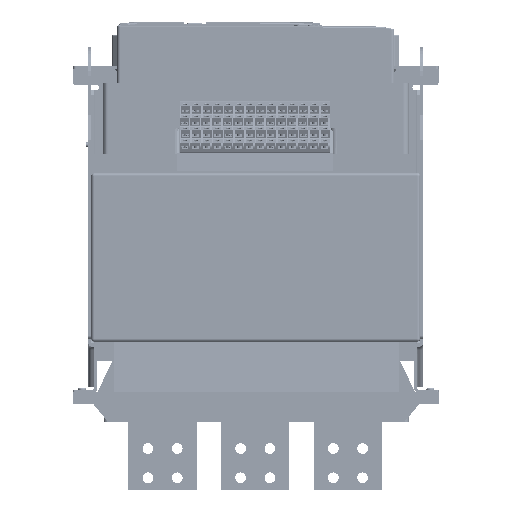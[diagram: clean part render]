
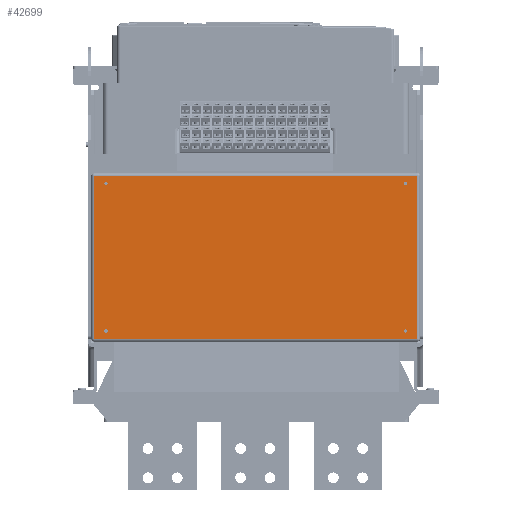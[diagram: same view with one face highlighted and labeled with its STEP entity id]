
A CAD part, front view. The second image highlights one B-rep face of the part: STEP entity #42699.
In plain terms, the highlighted planar face has unit normal (0, -1, 0).
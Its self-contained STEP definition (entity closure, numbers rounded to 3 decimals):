
#40400=CARTESIAN_POINT('',(-153.5,0.,75.5));
#40401=DIRECTION('',(0.,-1.,0.));
#40402=DIRECTION('',(1.,0.,0.));
#40403=AXIS2_PLACEMENT_3D('',#40400,#40401,#40402);
#40408=CARTESIAN_POINT('',(-153.5,0.,75.5));
#40409=DIRECTION('',(0.,-1.,0.));
#40410=DIRECTION('',(-1.,0.,0.));
#40411=AXIS2_PLACEMENT_3D('',#40408,#40409,#40410);
#40416=CARTESIAN_POINT('',(153.5,0.,75.5));
#40417=DIRECTION('',(0.,-1.,0.));
#40418=DIRECTION('',(1.,0.,0.));
#40419=AXIS2_PLACEMENT_3D('',#40416,#40417,#40418);
#40424=CARTESIAN_POINT('',(153.5,0.,75.5));
#40425=DIRECTION('',(0.,-1.,0.));
#40426=DIRECTION('',(-1.,0.,0.));
#40427=AXIS2_PLACEMENT_3D('',#40424,#40425,#40426);
#40432=CARTESIAN_POINT('',(153.5,0.,-75.5));
#40433=DIRECTION('',(0.,-1.,0.));
#40434=DIRECTION('',(1.,0.,0.));
#40435=AXIS2_PLACEMENT_3D('',#40432,#40433,#40434);
#40440=CARTESIAN_POINT('',(153.5,0.,-75.5));
#40441=DIRECTION('',(0.,-1.,0.));
#40442=DIRECTION('',(-1.,0.,0.));
#40443=AXIS2_PLACEMENT_3D('',#40440,#40441,#40442);
#40448=CARTESIAN_POINT('',(-153.5,0.,-75.5));
#40449=DIRECTION('',(0.,-1.,0.));
#40450=DIRECTION('',(1.,0.,0.));
#40451=AXIS2_PLACEMENT_3D('',#40448,#40449,#40450);
#40456=CARTESIAN_POINT('',(-153.5,0.,-75.5));
#40457=DIRECTION('',(0.,-1.,0.));
#40458=DIRECTION('',(-1.,0.,0.));
#40459=AXIS2_PLACEMENT_3D('',#40456,#40457,#40458);
#40464=DIRECTION('',(0.,0.,1.));
#40465=VECTOR('',#40464,167.);
#40466=CARTESIAN_POINT('',(165.5,0.,-83.5));
#40467=LINE('',#40466,#40465);
#40471=DIRECTION('',(1.,0.,0.));
#40472=VECTOR('',#40471,331.);
#40473=CARTESIAN_POINT('',(-165.5,0.,-83.5));
#40474=LINE('',#40473,#40472);
#40478=DIRECTION('',(0.,0.,-1.));
#40479=VECTOR('',#40478,167.);
#40480=CARTESIAN_POINT('',(-165.5,0.,83.5));
#40481=LINE('',#40480,#40479);
#40485=DIRECTION('',(-1.,0.,0.));
#40486=VECTOR('',#40485,331.);
#40487=CARTESIAN_POINT('',(165.5,0.,83.5));
#40488=LINE('',#40487,#40486);
#42484=CARTESIAN_POINT('',(-151.75,0.,75.5));
#42485=CARTESIAN_POINT('',(-155.25,0.,75.5));
#42486=VERTEX_POINT('',#42484);
#42487=VERTEX_POINT('',#42485);
#42488=CARTESIAN_POINT('',(155.25,0.,75.5));
#42489=CARTESIAN_POINT('',(151.75,0.,75.5));
#42490=VERTEX_POINT('',#42488);
#42491=VERTEX_POINT('',#42489);
#42492=CARTESIAN_POINT('',(155.25,0.,-75.5));
#42493=CARTESIAN_POINT('',(151.75,0.,-75.5));
#42494=VERTEX_POINT('',#42492);
#42495=VERTEX_POINT('',#42493);
#42496=CARTESIAN_POINT('',(-151.75,0.,-75.5));
#42497=CARTESIAN_POINT('',(-155.25,0.,-75.5));
#42498=VERTEX_POINT('',#42496);
#42499=VERTEX_POINT('',#42497);
#42616=CARTESIAN_POINT('',(165.5,0.,-83.5));
#42617=CARTESIAN_POINT('',(165.5,0.,83.5));
#42618=VERTEX_POINT('',#42616);
#42619=VERTEX_POINT('',#42617);
#42634=CARTESIAN_POINT('',(-165.5,0.,-83.5));
#42635=VERTEX_POINT('',#42634);
#42648=CARTESIAN_POINT('',(-165.5,0.,83.5));
#42649=VERTEX_POINT('',#42648);
#42660=CARTESIAN_POINT('',(0.,0.,0.));
#42661=DIRECTION('',(0.,1.,0.));
#42662=DIRECTION('',(1.,0.,0.));
#42663=AXIS2_PLACEMENT_3D('',#42660,#42661,#42662);
#42664=PLANE('',#42663);
#42666=ORIENTED_EDGE('',*,*,#42665,.F.);
#42668=ORIENTED_EDGE('',*,*,#42667,.F.);
#42670=ORIENTED_EDGE('',*,*,#42669,.F.);
#42672=ORIENTED_EDGE('',*,*,#42671,.F.);
#42673=EDGE_LOOP('',(#42666,#42668,#42670,#42672));
#42674=FACE_OUTER_BOUND('',#42673,.F.);
#42676=ORIENTED_EDGE('',*,*,#42675,.T.);
#42678=ORIENTED_EDGE('',*,*,#42677,.T.);
#42679=EDGE_LOOP('',(#42676,#42678));
#42680=FACE_BOUND('',#42679,.F.);
#42682=ORIENTED_EDGE('',*,*,#42681,.T.);
#42684=ORIENTED_EDGE('',*,*,#42683,.T.);
#42685=EDGE_LOOP('',(#42682,#42684));
#42686=FACE_BOUND('',#42685,.F.);
#42688=ORIENTED_EDGE('',*,*,#42687,.T.);
#42690=ORIENTED_EDGE('',*,*,#42689,.T.);
#42691=EDGE_LOOP('',(#42688,#42690));
#42692=FACE_BOUND('',#42691,.F.);
#42694=ORIENTED_EDGE('',*,*,#42693,.T.);
#42696=ORIENTED_EDGE('',*,*,#42695,.T.);
#42697=EDGE_LOOP('',(#42694,#42696));
#42698=FACE_BOUND('',#42697,.F.);
#42699=ADVANCED_FACE('',(#42674,#42680,#42686,#42692,#42698),#42664,.F.);
#40404=CIRCLE('',#40403,1.75);
#40412=CIRCLE('',#40411,1.75);
#40420=CIRCLE('',#40419,1.75);
#40428=CIRCLE('',#40427,1.75);
#40436=CIRCLE('',#40435,1.75);
#40444=CIRCLE('',#40443,1.75);
#40452=CIRCLE('',#40451,1.75);
#40460=CIRCLE('',#40459,1.75);
#42665=EDGE_CURVE('',#42618,#42619,#40467,.T.);
#42667=EDGE_CURVE('',#42635,#42618,#40474,.T.);
#42669=EDGE_CURVE('',#42649,#42635,#40481,.T.);
#42671=EDGE_CURVE('',#42619,#42649,#40488,.T.);
#42675=EDGE_CURVE('',#42490,#42491,#40420,.T.);
#42677=EDGE_CURVE('',#42491,#42490,#40428,.T.);
#42681=EDGE_CURVE('',#42494,#42495,#40436,.T.);
#42683=EDGE_CURVE('',#42495,#42494,#40444,.T.);
#42687=EDGE_CURVE('',#42498,#42499,#40452,.T.);
#42689=EDGE_CURVE('',#42499,#42498,#40460,.T.);
#42693=EDGE_CURVE('',#42486,#42487,#40404,.T.);
#42695=EDGE_CURVE('',#42487,#42486,#40412,.T.);
